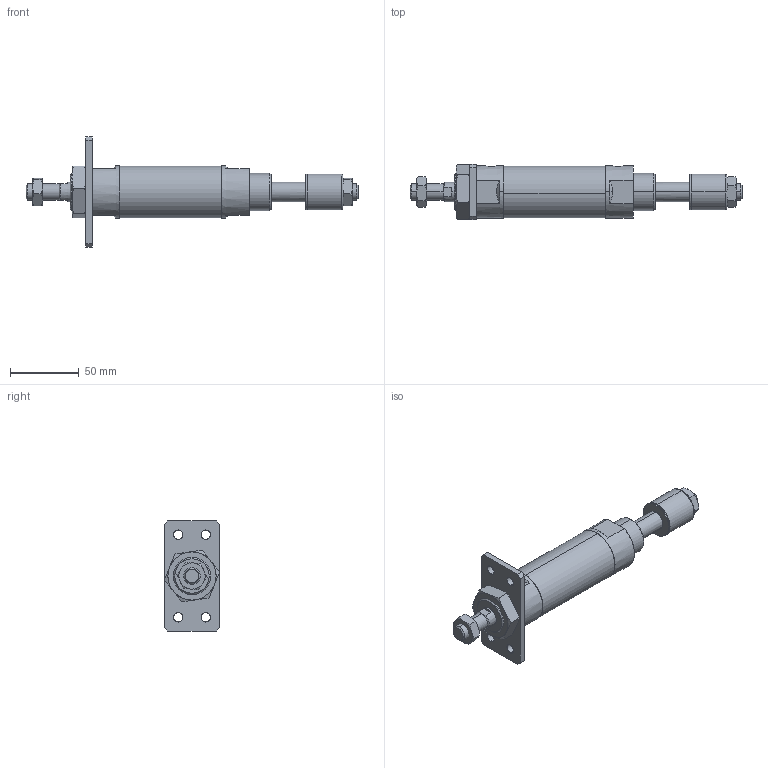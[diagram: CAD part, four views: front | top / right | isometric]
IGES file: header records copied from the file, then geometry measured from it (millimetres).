
Start section: SolidWorks IGES file using analytic representation for surfaces
Global section: file name: C:\Users\Toshiba\Desktop\JGA7-32-25-A.IGS; native system: SolidWorks 2014; preprocessor: SolidWorks 2014; author: Toshiba; date: 160420.095653; units: millimetre
Bounding box: 241 x 40.02 x 80 mm (x, y, z)
Surface area: 44037.2 mm2 (no closed solid volume)
Topology: 0 solids, 0 shells, 169 faces, 2956 edges, 2952 vertices
Faces by surface type: bspline 99, revolution 70
